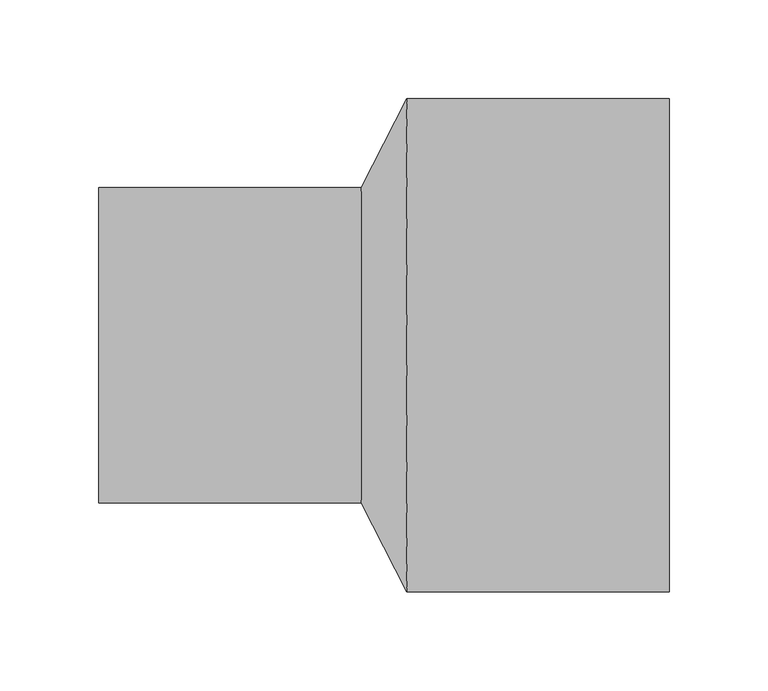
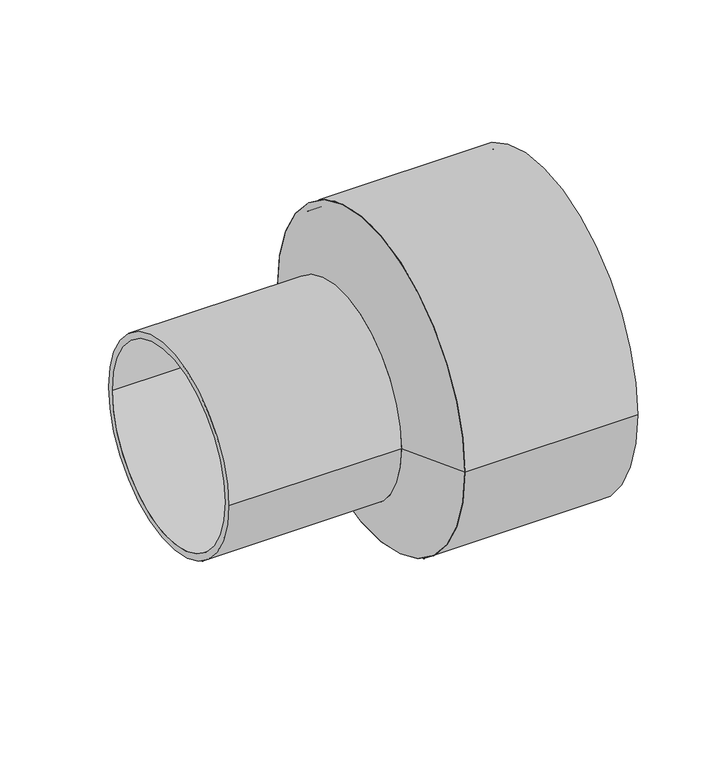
"""IFC4 building model written with IfcOpenShell, lengths in millimetres: pipe fitting geometry, EGB_VASEN_ PPR_Manguito reductor a tope WXRB110 : Manguito reductor a tope WXRB110."""

from ifc_helpers import new_model, si_unit, point, frame, origin, origin_2d, place, context, project, spatial, polyline, circle_curve, trimmed, segment, composite_curve, outline, extrude, source, transform, mapped, element, save
from ifc_brep_helpers import plane_surface, revolved_surface, advanced_brep


def pipe_fitting_3000d449(model_context):
    return source(origin(), model_context, "Body", "SolidModel", [
        extrude(outline(composite_curve([segment(trimmed(circle_curve(origin_2d(), 125.0), [point((-125.0, 0.0))], [point((125.0, 0.0))], False, "CARTESIAN"), True, "CONTINUOUS"), segment(trimmed(circle_curve(origin_2d(), 125.0), [point((125.0, 0.0))], [point((-125.0, 0.0))], False, "CARTESIAN"), True, "CONTINUOUS")], self_intersect=False), holes=[composite_curve([segment(trimmed(circle_curve(origin_2d(), 120.0), [point((-120.0, 0.0))], [point((120.0, 0.0))], True, "CARTESIAN"), True, "CONTINUOUS"), segment(trimmed(circle_curve(origin_2d(), 120.0), [point((120.0, 0.0))], [point((-120.0, 0.0))], True, "CARTESIAN"), True, "CONTINUOUS")], self_intersect=False)]), frame((11.56, 0.0, 0.0), z_axis=(1.0, 0.0, 0.0), x_axis=(0.0, 1.0, 0.0)), (0.0, 0.0, 1.0), 132.94),
        extrude(outline(composite_curve([segment(trimmed(circle_curve(origin_2d(), 80.0), [point((-80.0, 0.0))], [point((80.0, 0.0))], False, "CARTESIAN"), True, "CONTINUOUS"), segment(trimmed(circle_curve(origin_2d(), 80.0), [point((80.0, 0.0))], [point((-80.0, 0.0))], False, "CARTESIAN"), True, "CONTINUOUS")], self_intersect=False), holes=[composite_curve([segment(trimmed(circle_curve(origin_2d(), 75.0), [point((-75.0, 0.0))], [point((75.0, 0.0))], True, "CARTESIAN"), True, "CONTINUOUS"), segment(trimmed(circle_curve(origin_2d(), 75.0), [point((75.0, 0.0))], [point((-75.0, 0.0))], True, "CARTESIAN"), True, "CONTINUOUS")], self_intersect=False)]), frame((-144.5, 0.0, 0.0), z_axis=(1.0, 0.0, 0.0), x_axis=(0.0, 1.0, 0.0)), (0.0, 0.0, 1.0), 132.94),
        advanced_brep(
        [(11.56, -125.0, 0.0), (11.56, 125.0, 0.0), (-11.56, -80.0, 0.0), (-11.56, 80.0, 0.0)],
        [
            (0, 1, circle_curve(frame((11.56, 0.0, 0.0), z_axis=(1.0, 0.0, 0.0), x_axis=(0.0, -1.0, 0.0)), 125.0)),
            (1, 0, circle_curve(frame((11.56, 0.0, 0.0), z_axis=(1.0, 0.0, 0.0), x_axis=(0.0, 1.0, 0.0)), 125.0)),
            (2, 3, circle_curve(frame((-11.56, 0.0, 0.0), z_axis=(-1.0, 0.0, 0.0), x_axis=(0.0, 1.0, 0.0)), 80.0)),
            (3, 2, circle_curve(frame((-11.56, 0.0, 0.0), z_axis=(-1.0, 0.0, 0.0), x_axis=(0.0, -1.0, 0.0)), 80.0)),
            (3, 1),
            (0, 2),
        ],
        [
            plane_surface(frame((11.56, 0.0, 0.0), z_axis=(1.0, 0.0, 0.0), x_axis=(0.0, 0.0, -1.0))),
            plane_surface(frame((-11.56, 0.0, 0.0), z_axis=(-1.0, 0.0, 0.0), x_axis=(0.0, 0.0, -1.0))),
            revolved_surface(polyline([(-11.560000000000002, 79.99999998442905, 0.0), (11.560000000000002, 125.0, 0.0)]), (-52.6622222, 0.0, 0.0), (1.0, 0.0, 0.0)),
            revolved_surface(polyline([(-11.560000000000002, -79.99999998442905, 0.0), (11.560000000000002, -125.0, 0.0)]), (-52.6622222, 0.0, 0.0), (1.0, 0.0, 0.0)),
        ],
        [
            (0, [[1, 2]]),
            (1, [[3, 4]]),
            (2, [[-4, 5, -1, 6]]),
            (3, [[-3, -6, -2, -5]]),
        ],
    ),
    ])


if __name__ == "__main__":
    model = new_model("IFC4")
    model_context = context("Model", 3, world=origin())
    ifc_project = project(units=[si_unit("LENGTHUNIT", "METRE", prefix="MILLI")], contexts=[model_context])
    site = spatial("IfcSite", under=ifc_project)
    building = spatial("IfcBuilding", under=site)
    placement = place(None, origin())
    pipe_fitting_shape = pipe_fitting_3000d449(model_context)
    element("IfcPipeFitting", 1, ObjectType="EGB_VASEN_ PPR_Manguito reductor a tope WXRB110 : Manguito reductor a tope WXRB110", at=placement, inside=building, context=model_context, shape_type="MappedRepresentation", body=[
        mapped(pipe_fitting_shape, transform((0.0, 0.0, 0.0), x_axis=(1.0, 0.0, 0.0), y_axis=(0.0, 1.0, 0.0), z_axis=(0.0, 0.0, 1.0))),
    ])
    save(model, "model.ifc")
